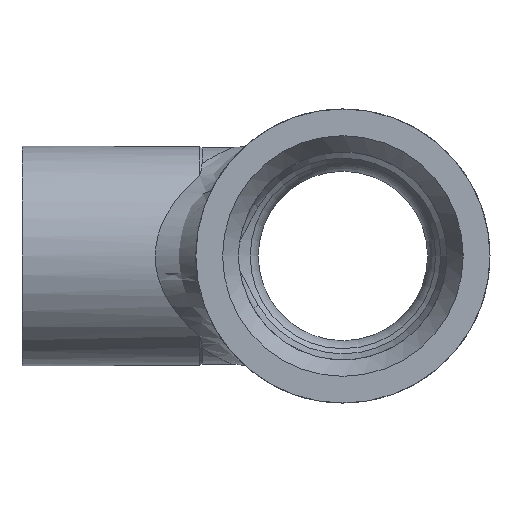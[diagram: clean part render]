
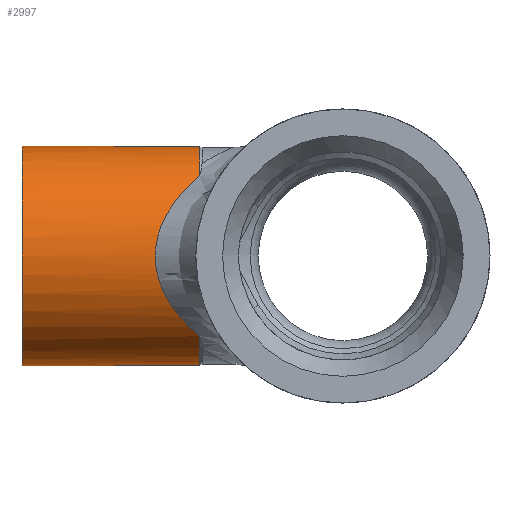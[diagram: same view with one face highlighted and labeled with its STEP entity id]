
A CAD part, left-side view. The second image highlights one B-rep face of the part: STEP entity #2997.
In plain terms, the highlighted cylindrical face has radius 3.7 mm (diameter 7.4 mm), a full revolution.
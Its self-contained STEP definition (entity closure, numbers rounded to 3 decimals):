
#2427=CARTESIAN_POINT('',(-2.53,4.826,2.7));
#2428=VERTEX_POINT('',#2427);
#2436=CARTESIAN_POINT('',(-2.53,4.826,-2.7));
#2437=VERTEX_POINT('',#2436);
#2438=CARTESIAN_POINT('',(-2.53,4.826,2.7));
#2439=CARTESIAN_POINT('',(-2.786,5.112,2.46));
#2440=CARTESIAN_POINT('',(-3.017,5.4,2.175));
#2441=CARTESIAN_POINT('',(-3.355,5.838,1.589));
#2442=CARTESIAN_POINT('',(-3.481,6.01,1.297));
#2443=CARTESIAN_POINT('',(-3.639,6.23,0.718));
#2444=CARTESIAN_POINT('',(-3.684,6.293,0.446));
#2445=CARTESIAN_POINT('',(-3.709,6.329,-0.132));
#2446=CARTESIAN_POINT('',(-3.687,6.297,-0.42));
#2447=CARTESIAN_POINT('',(-3.566,6.127,-1.05));
#2448=CARTESIAN_POINT('',(-3.452,5.968,-1.371));
#2449=CARTESIAN_POINT('',(-3.103,5.508,-2.067));
#2450=CARTESIAN_POINT('',(-2.833,5.165,-2.416));
#2451=CARTESIAN_POINT('',(-2.53,4.826,-2.7));
#2452=B_SPLINE_CURVE_WITH_KNOTS('',3,(#2438,#2439,#2440,#2441,#2442,#2443,#2444,#2445,#2446,#2447,#2448,#2449,#2450,#2451),.UNSPECIFIED.,.F.,.U.,(4,2,2,2,2,2,4),(-0.689,-0.553,-0.447,-0.361,-0.272,-0.161,0.0),.UNSPECIFIED.);
#2453=EDGE_CURVE('',#2428,#2437,#2452,.T.);
#2487=CARTESIAN_POINT('',(2.53,4.826,-2.7));
#2488=VERTEX_POINT('',#2487);
#2496=CARTESIAN_POINT('',(2.53,4.826,2.7));
#2497=VERTEX_POINT('',#2496);
#2498=CARTESIAN_POINT('',(2.53,4.826,-2.7));
#2499=CARTESIAN_POINT('',(2.785,5.111,-2.461));
#2500=CARTESIAN_POINT('',(3.015,5.398,-2.177));
#2501=CARTESIAN_POINT('',(3.353,5.836,-1.592));
#2502=CARTESIAN_POINT('',(3.48,6.008,-1.301));
#2503=CARTESIAN_POINT('',(3.639,6.229,-0.721));
#2504=CARTESIAN_POINT('',(3.684,6.293,-0.448));
#2505=CARTESIAN_POINT('',(3.709,6.329,0.131));
#2506=CARTESIAN_POINT('',(3.687,6.297,0.419));
#2507=CARTESIAN_POINT('',(3.566,6.127,1.049));
#2508=CARTESIAN_POINT('',(3.452,5.969,1.369));
#2509=CARTESIAN_POINT('',(3.104,5.508,2.066));
#2510=CARTESIAN_POINT('',(2.833,5.166,2.416));
#2511=CARTESIAN_POINT('',(2.53,4.826,2.7));
#2512=B_SPLINE_CURVE_WITH_KNOTS('',3,(#2498,#2499,#2500,#2501,#2502,#2503,#2504,#2505,#2506,#2507,#2508,#2509,#2510,#2511),.UNSPECIFIED.,.F.,.U.,(4,2,2,2,2,2,4),(-0.689,-0.554,-0.447,-0.361,-0.272,-0.161,0.0),.UNSPECIFIED.);
#2513=EDGE_CURVE('',#2488,#2497,#2512,.T.);
#2959=CARTESIAN_POINT('',(0.,4.826,0.0));
#2960=DIRECTION('',(0.0,1.0,0.0));
#2961=DIRECTION('',(-1.0,0.0,0.0));
#2962=AXIS2_PLACEMENT_3D('',#2959,#2960,#2961);
#2963=CIRCLE('',#2962,3.7);
#2964=EDGE_CURVE('',#2488,#2437,#2963,.T.);
#2969=CARTESIAN_POINT('',(0.,7.813,0.0));
#2970=DIRECTION('',(0.,1.0,0.0));
#2971=DIRECTION('',(-1.0,0.0,0.0));
#2972=AXIS2_PLACEMENT_3D('',#2969,#2970,#2971);
#2973=CYLINDRICAL_SURFACE('',#2972,3.7);
#2974=CARTESIAN_POINT('',(-3.7,10.8,0.0));
#2975=VERTEX_POINT('',#2974);
#2976=CARTESIAN_POINT('',(0.,10.8,0.0));
#2977=DIRECTION('',(0.0,1.0,0.0));
#2978=DIRECTION('',(-1.0,0.0,0.0));
#2979=AXIS2_PLACEMENT_3D('',#2976,#2977,#2978);
#2980=CIRCLE('',#2979,3.7);
#2981=EDGE_CURVE('',#2975,#2975,#2980,.T.);
#2982=ORIENTED_EDGE('',*,*,#2981,.F.);
#2983=EDGE_LOOP('',(#2982));
#2984=FACE_OUTER_BOUND('',#2983,.T.);
#2985=ORIENTED_EDGE('',*,*,#2513,.F.);
#2986=ORIENTED_EDGE('',*,*,#2964,.T.);
#2987=ORIENTED_EDGE('',*,*,#2453,.F.);
#2988=CARTESIAN_POINT('',(0.,4.826,0.0));
#2989=DIRECTION('',(0.0,1.0,0.0));
#2990=DIRECTION('',(-1.0,0.0,0.0));
#2991=AXIS2_PLACEMENT_3D('',#2988,#2989,#2990);
#2992=CIRCLE('',#2991,3.7);
#2993=EDGE_CURVE('',#2428,#2497,#2992,.T.);
#2994=ORIENTED_EDGE('',*,*,#2993,.T.);
#2995=EDGE_LOOP('',(#2985,#2986,#2987,#2994));
#2996=FACE_BOUND('',#2995,.T.);
#2997=ADVANCED_FACE('',(#2984,#2996),#2973,.T.);
